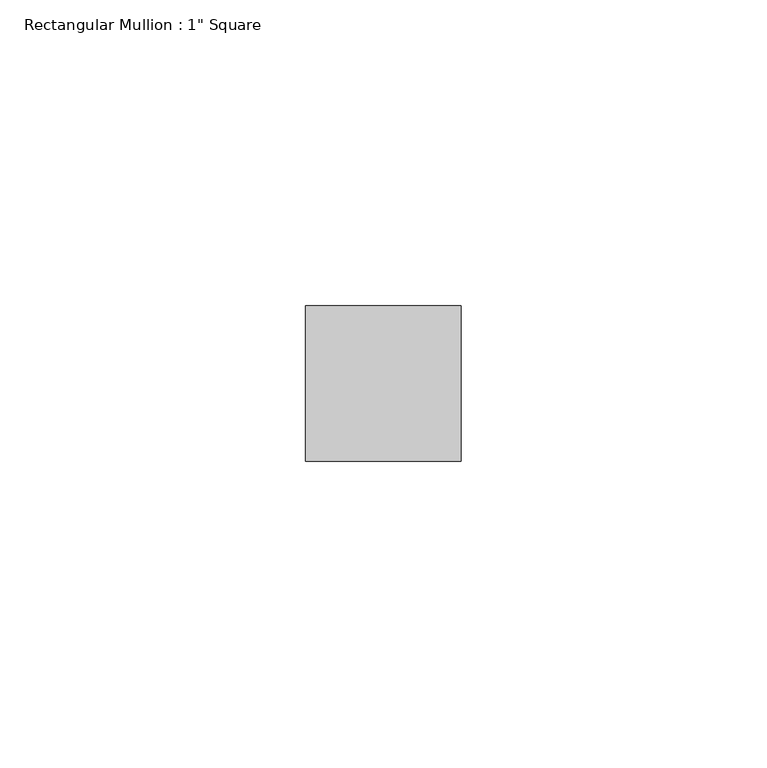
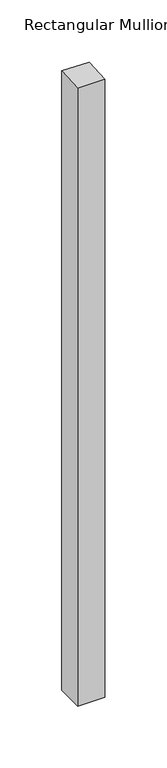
"""IFC4 building model written with IfcOpenShell, lengths in millimetres: member geometry."""

from ifc_helpers import new_model, si_unit, origin, place, context, project, spatial, faceted_brep, source, transform, mapped, element, save


def member_15ddbe85(model_context):
    return source(origin(), model_context, "Body", "Brep", [
        faceted_brep([(0.0, 12.7, -609.6), (0.0, -12.7, -609.6), (-25.4, -12.7, -609.6), (-25.4, 12.7, -609.6), (-25.4, 12.7, 0.8186356), (0.0, 12.7, 0.7581379), (-25.4, -12.7, -0.6976403), (0.0, -12.7, -0.7581379)], [[[0, 1, 2, 3]], [[4, 5, 0, 3]], [[6, 4, 3, 2]], [[7, 6, 2, 1]], [[5, 7, 1, 0]], [[5, 4, 6, 7]]]),
    ])


if __name__ == "__main__":
    model = new_model("IFC4")
    model_context = context("Model", 3, world=origin())
    ifc_project = project(units=[si_unit("LENGTHUNIT", "METRE", prefix="MILLI")], contexts=[model_context])
    site = spatial("IfcSite", under=ifc_project)
    building = spatial("IfcBuilding", under=site)
    placement = place(None, origin())
    member_shape = member_15ddbe85(model_context)
    element("IfcMember", 1, ObjectType="Rectangular Mullion : 1\" Square", at=placement, inside=building, context=model_context, shape_type="MappedRepresentation", body=[
        mapped(member_shape, transform((0.0, 0.0, 0.0), x_axis=(1.0, 0.0, 0.0), y_axis=(0.0, 1.0, 0.0), z_axis=(0.0, 0.0, 1.0))),
    ])
    save(model, "model.ifc")
